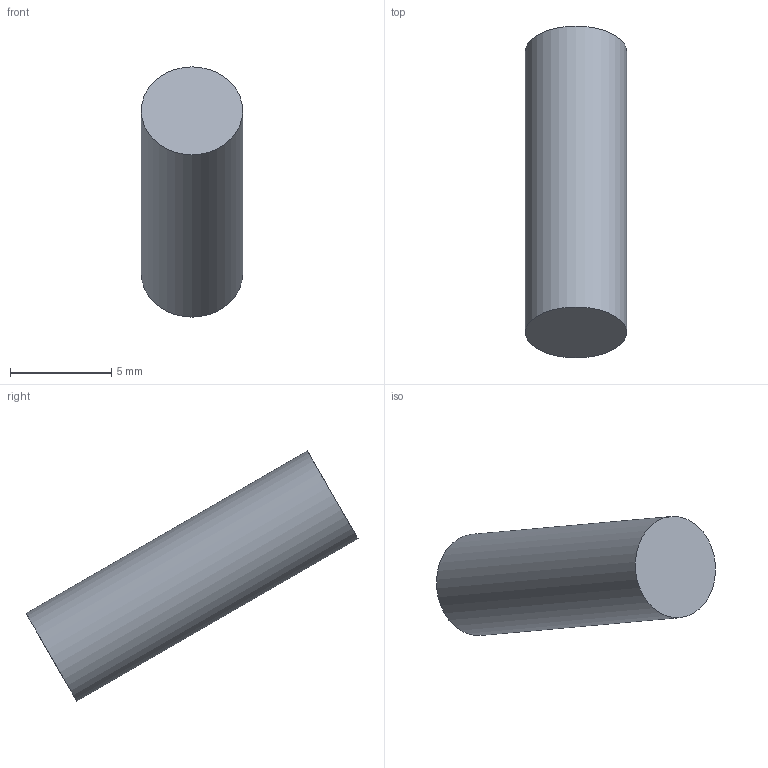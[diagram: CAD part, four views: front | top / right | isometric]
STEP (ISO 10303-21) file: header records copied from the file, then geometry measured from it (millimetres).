
FILE_DESCRIPTION(('Open CASCADE Model'),'2;1');
FILE_NAME('Open CASCADE Shape Model','2026-11-23T20:25:51',('Author'),( 'Open CASCADE'),'Open CASCADE STEP processor 7.9','Open CASCADE 7.9' ,'Unknown');
FILE_SCHEMA(('AUTOMOTIVE_DESIGN { 1 0 10303 214 1 1 1 1 }'));
Length unit declared in the file: millimetre
Products named in the file (1): Open CASCADE STEP translator 7.9 14
Bounding box: 5 x 16.36 x 12.33 mm (x, y, z)
Volume: 314.2 mm3; surface area: 290.6 mm2
Topology: 1 solids, 1 shells, 3 faces, 3 edges, 2 vertices
Faces by surface type: plane 2, cylinder 1
Full cylindrical faces by diameter (mm): 5 x1
Entity records: 108 total; most frequent: DIRECTION 19, CARTESIAN_POINT 15, AXIS2_PLACEMENT_3D 6, ORIENTED_EDGE 6, PCURVE 6, DEFINITIONAL_REPRESENTATION 6, LINE 5, VECTOR 5
